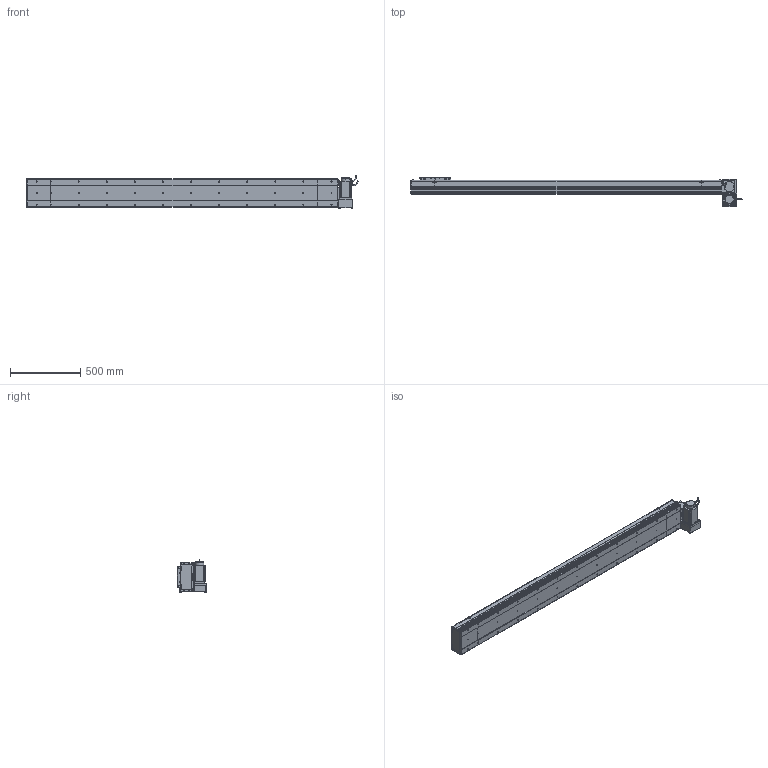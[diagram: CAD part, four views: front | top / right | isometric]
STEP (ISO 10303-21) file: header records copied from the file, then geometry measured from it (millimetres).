
FILE_DESCRIPTION (( 'STEP AP214' ), '1' );
FILE_NAME ('D20 CBH RU S1900.STEP', '2010-06-30T09:47:37', ( 'Conseil Régional Haute-Normandie' ), ( 'Conseil Régional Haute-Normandie' ), 'SwSTEP 2.0', 'SolidWorks 2010', '' );
FILE_SCHEMA (( 'AUTOMOTIVE_DESIGN' ));
Length unit declared in the file: millimetre
Products named in the file (31): vis M5 L30_Default; vis M5 L15_Default; Plaque De Serrage D20_Default; Tail D20+100_Default; Couvercle S1900_Default; Corp S1900_Default; Plaque de Bout Tail D20_Default; Couvercle_Default; Corp Tail D20+100_Default; Corp D20 S1900_Default; Glissiere_Default; Chariot D20_Default; Support Chariot D20_Default; vis M5 L47_Default; ecrou_Default; Plaque de Bout Head D20 RU_Default; Head RU_Default; D20 CBH RU S1900; Couvercle RU_Default; Corp Tail D20 RU_Default; Support moteur RU_Default; Rondelle Cache D20 RU_Default; Cache Support Moteur RU_Default; Plaque De Serrage D20 RU_Default; corps 90BLDC125A-640; avant 90BLDC125A-640; Moteur motionking 90BLDC125A-640; Conecteur_Default; Conecteur2_Default; codeur 90BLDC125-640
Assembly tree (66 placements, depth 4):
  D20 CBH RU S1900
    Chariot D20_Default
      vis M5 L15_Default  x8
      Glissiere_Default
      Chariot D20_Default
      Support Chariot D20_Default
    Head RU_Default
      vis M5 L15_Default  x12
      Corp Tail D20 RU_Default
      Rondelle Cache D20 RU_Default  x3
      Support moteur RU_Default
      Cache Support Moteur RU_Default
      Plaque De Serrage D20 RU_Default
      ecrou_Default  x4
      vis M5 L30_Default  x4
      vis M5 L47_Default  x4
      Moteur motionking 90BLDC125A-640
        Conecteur_Default
        codeur 90BLDC125-640
        avant 90BLDC125A-640
        Conecteur2_Default
        corps 90BLDC125A-640
      Plaque de Bout Head D20 RU_Default
      Couvercle RU_Default
    Tail D20+100_Default
      vis M5 L15_Default  x6
      Couvercle_Default
      Plaque De Serrage D20_Default
      Plaque de Bout Tail D20_Default
      Corp Tail D20+100_Default
    Corp D20 S1900_Default
      Couvercle S1900_Default
      Corp S1900_Default
Bounding box: 2364.45 x 209 x 229.7 mm (x, y, z)
Volume: 16291344.9 mm3; surface area: 3191207 mm2
Topology: 103 solids, 103 shells, 3772 faces, 9416 edges, 6118 vertices
Faces by surface type: plane 2099, bspline 806, cylinder 704, torus 91, cone 68, sphere 4
Entity records: 159574 total; most frequent: CARTESIAN_POINT 82344, ORIENTED_EDGE 15300, DIRECTION 11634, EDGE_CURVE 7650, VERTEX_POINT 5062, VECTOR 4954, LINE 4954, AXIS2_PLACEMENT_3D 3340
